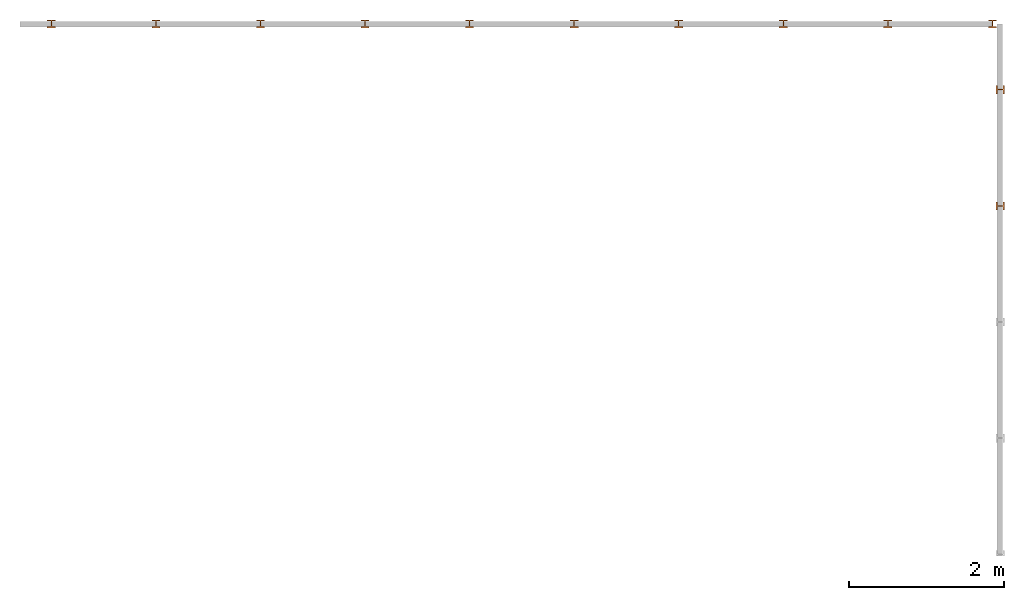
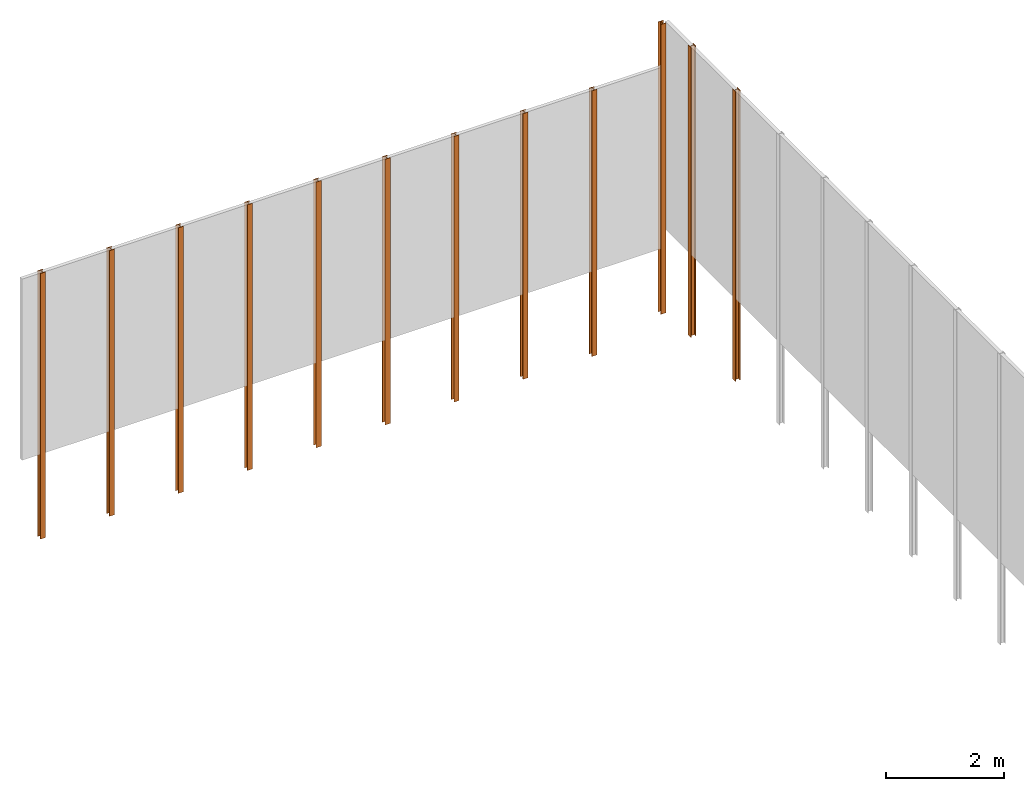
# One storey, part 3 of 4: 12 proxies.
"""IFC4 building model written with IfcOpenShell, lengths in metres."""

import ifcopenshell
import ifcopenshell.guid

model = None  # the IFC model being written
_history = None  # IfcOwnerHistory: only IFC2X3 demands one
_inside = {}  # id of a spatial element -> (the spatial element, [elements in it])
_under = {}  # id of a project, library or spatial element -> (it, [spatial elements below it])
_declared = {}  # id of a project -> (the project, [libraries it declares])
_typed = {}  # id of a type object -> (the type object, [elements of that type])
_made_of = {}  # id of a material, layer set ... -> (it, [elements and type objects made of it])


def new_model(schema):
    """Start an empty IFC model of exactly this schema.

    Asked for "IFC4X3", IfcOpenShell would pick the latest addendum, in which some entities
    have other attributes; the version numbers below select the first issue.
    IFC2X3 requires an IfcOwnerHistory on every rooted entity: one is made here for all.
    """
    global model, _history
    if schema == "IFC4X3":
        model = ifcopenshell.file(schema_version=(4, 3, 0, 0))
    else:
        model = ifcopenshell.file(schema=schema)
    _inside.clear()
    _under.clear()
    _declared.clear()
    _typed.clear()
    _made_of.clear()
    _history = None
    if model.schema == "IFC2X3":
        org = make("IfcOrganization", Name="unknown")
        user = make(
            "IfcPersonAndOrganization",
            ThePerson=make("IfcPerson", FamilyName="unknown"),
            TheOrganization=org,
        )
        app = make(
            "IfcApplication",
            ApplicationDeveloper=org,
            Version="unknown",
            ApplicationFullName="unknown",
            ApplicationIdentifier="unknown",
        )
        _history = make(
            "IfcOwnerHistory",
            OwningUser=user,
            OwningApplication=app,
            ChangeAction="ADDED",
            CreationDate=0,
        )
    return model


def make(cls, **values):
    """One entity of the class cls with the attributes given. An attribute that is None is left unset."""
    return model.create_entity(
        cls, **{name: value for name, value in values.items() if value is not None}
    )


def entity(cls, *values):
    """Any entity or typed value of the class cls, its attributes in the order of the schema. None: left unset."""
    e = model.create_entity(cls)
    for i, value in enumerate(values):
        if value is not None:
            e[i] = value
    return e


def rooted(cls, **values):
    """An entity with a GlobalId (a new one), such as an element, a storey or a relation."""
    return make(cls, GlobalId=ifcopenshell.guid.new(), OwnerHistory=_history, **values)


def si_unit(unit_type, name, prefix=None):
    """IfcSIUnit, for example si_unit("LENGTHUNIT", "METRE", prefix="MILLI")."""
    return make("IfcSIUnit", UnitType=unit_type, Prefix=prefix, Name=name)


def converted_unit(unit_type, name, factor, base, dimensions=None, offset=None):
    """IfcConversionBasedUnit, such as the inch: factor (a typed value) times the base unit."""
    return make(
        "IfcConversionBasedUnit"
        if offset is None
        else "IfcConversionBasedUnitWithOffset",
        ConversionOffset=offset,
        Dimensions=None
        if dimensions is None
        else entity("IfcDimensionalExponents", *dimensions),
        UnitType=unit_type,
        Name=name,
        ConversionFactor=make(
            "IfcMeasureWithUnit", ValueComponent=factor, UnitComponent=base
        ),
    )


def derived_unit(unit_type, elements):
    """IfcDerivedUnit: a product of units, each with its exponent."""
    return make(
        "IfcDerivedUnit",
        Elements=[
            make("IfcDerivedUnitElement", Unit=unit, Exponent=power)
            for unit, power in elements
        ],
        UnitType=unit_type,
    )


def assignment(units):
    """IfcUnitAssignment: the units of a project."""
    return None if units is None else make("IfcUnitAssignment", Units=units)


def point(xyz):
    """IfcCartesianPoint."""
    return None if xyz is None else make("IfcCartesianPoint", Coordinates=xyz)


def direction(xyz):
    """IfcDirection."""
    return None if xyz is None else make("IfcDirection", DirectionRatios=xyz)


def frame(location, z_axis=None, x_axis=None):
    """IfcAxis2Placement3D, a coordinate frame: its origin and axes. An axis left out is left unset."""
    return make(
        "IfcAxis2Placement3D",
        Location=point(location),
        Axis=direction(z_axis),
        RefDirection=direction(x_axis),
    )


def origin():
    """The frame at (0, 0, 0) with its axes left unset."""
    return frame((0.0, 0.0, 0.0))


def origin_with_axes():
    """The frame at (0, 0, 0) with the z axis (0, 0, 1) and the x axis (1, 0, 0) written out."""
    return frame((0.0, 0.0, 0.0), z_axis=(0.0, 0.0, 1.0), x_axis=(1.0, 0.0, 0.0))


def place(relative_to, where):
    """IfcLocalPlacement: puts the frame where relative to a parent placement (None: the world)."""
    return make(
        "IfcLocalPlacement", PlacementRelTo=relative_to, RelativePlacement=where
    )


def context(
    kind, dimensions, precision=None, world=None, true_north=None, identifier=None
):
    """IfcGeometricRepresentationContext, for example the 3D "Model" context."""
    return make(
        "IfcGeometricRepresentationContext",
        ContextIdentifier=identifier,
        ContextType=kind,
        CoordinateSpaceDimension=dimensions,
        Precision=precision,
        WorldCoordinateSystem=world,
        TrueNorth=true_north,
    )


def subcontext(parent, identifier, kind, view, scale=None):
    """IfcGeometricRepresentationSubContext, for example "Body" below "Model"."""
    return make(
        "IfcGeometricRepresentationSubContext",
        ContextIdentifier=identifier,
        ContextType=kind,
        ParentContext=parent,
        TargetScale=scale,
        TargetView=view,
    )


def project(units=None, contexts=None):
    """IfcProject with its units and contexts."""
    return rooted(
        "IfcProject",
        Name="project",
        RepresentationContexts=contexts,
        UnitsInContext=assignment(units),
    )


def spatial(cls, under=None, at=None, **own):
    """A site, building, storey or space (cls), placed at a placement, below another one or the project."""
    s = rooted(cls, ObjectPlacement=at, **own)
    if under is not None:
        _under.setdefault(under.id(), (under, []))[1].append(s)
    return s


def faces_of(points, faces, orient=None, outer=None):
    """IfcFace entities. A face is a list of loops; a loop is a list of indices into points, from 0.

    orient and outer hold one flag for each loop. By default every Orientation is true, the
    first loop of a face is its IfcFaceOuterBound and the others are IfcFaceBound.
    """
    made = []
    for i, loops in enumerate(faces):
        bounds = []
        for j, loop in enumerate(loops):
            is_outer = j == 0 if outer is None else outer[i][j]
            bounds.append(
                make(
                    "IfcFaceOuterBound" if is_outer else "IfcFaceBound",
                    Bound=make("IfcPolyLoop", Polygon=[points[k] for k in loop]),
                    Orientation=True if orient is None else orient[i][j],
                )
            )
        made.append(make("IfcFace", Bounds=bounds))
    return made


def faceted_brep(points, faces, orient=None, outer=None, voids=None):
    """IfcFacetedBrep: a solid bounded by flat faces; with voids (closed shells), ...WithVoids."""
    shared = [point(p) for p in points]
    hull = make("IfcClosedShell", CfsFaces=faces_of(shared, faces, orient, outer))
    if voids is None:
        return make("IfcFacetedBrep", Outer=hull)
    return make(
        "IfcFacetedBrepWithVoids",
        Outer=hull,
        Voids=[
            make(cls, CfsFaces=faces_of(shared, fs, o, b)) for cls, fs, o, b in voids
        ],
    )


def shape(context_of_items, identifier, shape_type, items):
    """IfcShapeRepresentation: the items that make up one representation, for example the "Body"."""
    return make(
        "IfcShapeRepresentation",
        ContextOfItems=context_of_items,
        RepresentationIdentifier=identifier,
        RepresentationType=shape_type,
        Items=items,
    )


def source(mapping_origin, context_of_items, identifier, shape_type, items):
    """IfcRepresentationMap: a shape defined once, which mapped items show again and again."""
    return make(
        "IfcRepresentationMap",
        MappingOrigin=mapping_origin,
        MappedRepresentation=shape(context_of_items, identifier, shape_type, items),
    )


def transform(
    local_origin,
    x_axis=None,
    y_axis=None,
    z_axis=None,
    scale=None,
    scale2=None,
    scale3=None,
    uniform=True,
):
    """IfcCartesianTransformationOperator3D, or its non-uniform kind. x_axis, y_axis, z_axis: its Axis1, 2, 3."""
    if uniform:
        return make(
            "IfcCartesianTransformationOperator3D",
            Axis1=direction(x_axis),
            Axis2=direction(y_axis),
            LocalOrigin=point(local_origin),
            Scale=scale,
            Axis3=direction(z_axis),
        )
    return make(
        "IfcCartesianTransformationOperator3DnonUniform",
        Axis1=direction(x_axis),
        Axis2=direction(y_axis),
        LocalOrigin=point(local_origin),
        Scale=scale,
        Axis3=direction(z_axis),
        Scale2=scale2,
        Scale3=scale3,
    )


def mapped(mapping_source, mapping_target):
    """IfcMappedItem: shows the shape of a source again, moved by a transform."""
    return make(
        "IfcMappedItem", MappingSource=mapping_source, MappingTarget=mapping_target
    )


def material(Name=None, Category=None):
    """IfcMaterial."""
    return make("IfcMaterial", Name=Name, Category=Category)


def made_of(thing, what):
    """Note that an element or type object is made of a material, layer set ...; save() writes the relation."""
    if what is not None:
        _made_of.setdefault(what.id(), (what, []))[1].append(thing)
    return thing


def element(
    cls,
    number,
    at=None,
    inside=None,
    cuts=None,
    type_object=None,
    material=None,
    context=None,
    identifier="Body",
    shape_type=None,
    held_by="IfcProductDefinitionShape",
    body=None,
    shapes=None,
    **own,
):
    """One element of the class cls, such as IfcWall. Its Tag is "e" and its number.

    at: its placement. inside: the storey or other place that contains it. cuts: it is an
    opening in that element (IfcRelVoidsElement). A single representation is given by context,
    identifier, shape_type and body (its items); several are given by shapes. held_by: the class
    of the entity that holds the representations. save() writes the other relations.
    """
    e = rooted(cls, Tag="e%d" % number, ObjectPlacement=at, **own)
    if body is not None:
        shapes = [shape(context, identifier, shape_type, body)]
    if shapes is not None:
        e.Representation = make(held_by, Representations=shapes)
    if inside is not None:
        _inside.setdefault(inside.id(), (inside, []))[1].append(e)
    if cuts is not None:
        rooted(
            "IfcRelVoidsElement", RelatingBuildingElement=cuts, RelatedOpeningElement=e
        )
    if type_object is not None:
        _typed.setdefault(type_object.id(), (type_object, []))[1].append(e)
    return made_of(e, material)


def aggregate(whole, parts):
    """IfcRelAggregates: a whole, such as a stair, and the parts it consists of."""
    return rooted("IfcRelAggregates", RelatingObject=whole, RelatedObjects=parts)


def save(model, path):
    """Write the relations noted so far, then the file.

    IfcRelAggregates (storeys below a building ...), IfcRelContainedInSpatialStructure (elements
    in a storey), IfcRelDefinesByType, IfcRelAssociatesMaterial and IfcRelDeclares: one each for
    every whole, place, type object, material and project.
    """
    for whole, parts in _under.values():
        aggregate(whole, parts)
    for where, things in _inside.values():
        rooted(
            "IfcRelContainedInSpatialStructure",
            RelatedElements=things,
            RelatingStructure=where,
        )
    for kind, things in _typed.values():
        rooted("IfcRelDefinesByType", RelatedObjects=things, RelatingType=kind)
    for what, things in _made_of.values():
        rooted("IfcRelAssociatesMaterial", RelatedObjects=things, RelatingMaterial=what)
    for by, libraries in _declared.values():
        rooted("IfcRelDeclares", RelatingContext=by, RelatedDefinitions=libraries)
    model.write(path)


model = new_model("IFC4")

# Units and contexts
model_context = context("Model", 3, precision=1e-05, world=origin())
body_context = subcontext(model_context, "Body", "Model", "MODEL_VIEW")
ifc_project = project(units=[si_unit("LENGTHUNIT", "METRE"), si_unit("AREAUNIT", "SQUARE_METRE"), si_unit("VOLUMEUNIT", "CUBIC_METRE"), si_unit("MASSUNIT", "GRAM", prefix="KILO"), converted_unit("PLANEANGLEUNIT", "DEGREE", entity("IfcPlaneAngleMeasure", 0.0174532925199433), si_unit("PLANEANGLEUNIT", "RADIAN"), dimensions=[0, 0, 0, 0, 0, 0, 0]), derived_unit("THERMALTRANSMITTANCEUNIT", [(si_unit("POWERUNIT", "WATT"), 1), (si_unit("THERMODYNAMICTEMPERATUREUNIT", "KELVIN"), -1), (si_unit("LENGTHUNIT", "METRE"), -2)]), derived_unit("VOLUMETRICFLOWRATEUNIT", [(si_unit("LENGTHUNIT", "METRE"), 3), (converted_unit("TIMEUNIT", "hour", entity("IfcTimeMeasure", 3600.0), si_unit("TIMEUNIT", "SECOND"), dimensions=[0, 0, 1, 0, 0, 0, 0]), -1), (si_unit("LENGTHUNIT", "METRE"), -1)])], contexts=[model_context])

# Site, building, storey
site_placement = place(None, origin())
site = spatial("IfcSite", under=ifc_project, at=site_placement, Name="3. ASŘ", CompositionType="ELEMENT")
building_placement = place(site_placement, origin())
building = spatial("IfcBuilding", under=site, at=building_placement, Name="Pavilon C", CompositionType="ELEMENT")
storey_placement = place(building_placement, origin())
storey = spatial("IfcBuildingStorey", under=building, at=storey_placement, Name="Výkopy", CompositionType="ELEMENT", Elevation=0.0)

# Proxies
ifc_material_1 = material(Name="HEB 100")
shared_shape_1 = source(origin_with_axes(), body_context, "Body", "Brep", [
    faceted_brep([(0.0, 0.0, 0.0), (0.1, 0.0, 0.0), (0.1, 0.00999999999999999, 0.0), (0.053, 0.00999999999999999, 0.0), (0.053, 0.09, 0.0), (0.1, 0.09, 0.0), (0.1, 0.1, 0.0), (0.0, 0.1, 0.0), (0.0, 0.09, 0.0), (0.047, 0.09, 0.0), (0.047, 0.01, 0.0), (0.0, 0.01, 0.0), (0.1, 0.0, 6.0), (0.0, 0.0, 6.0), (0.0, 0.01, 6.0), (0.047, 0.01, 6.0), (0.047, 0.09, 6.0), (0.0, 0.09, 6.0), (0.0, 0.1, 6.0), (0.1, 0.1, 6.0), (0.1, 0.09, 6.0), (0.053, 0.09, 6.0), (0.053, 0.00999999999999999, 6.0), (0.1, 0.00999999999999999, 6.0)], [[[0, 1, 2, 3, 4, 5, 6, 7, 8, 9, 10, 11]], [[12, 13, 14, 15, 16, 17, 18, 19, 20, 21, 22, 23]], [[1, 0, 13, 12]], [[7, 6, 19, 18]], [[8, 7, 18, 17]], [[9, 8, 17, 16]], [[10, 9, 16, 15]], [[11, 10, 15, 14]], [[0, 11, 14, 13]], [[2, 1, 12, 23]], [[3, 2, 23, 22]], [[4, 3, 22, 21]], [[5, 4, 21, 20]], [[6, 5, 20, 19]]], orient=[[False], [False], [False], [False], [False], [False], [False], [False], [False], [False], [False], [False], [False], [False]]),
])
proxy_1_placement = place(storey_placement, frame((65.8, 16.4250000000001, -5.8), z_axis=(0.0, 0.0, 1.0), x_axis=(-3.67394039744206e-16, -1.0, 0.0)))
element("IfcBuildingElementProxy", 1, at=proxy_1_placement, inside=storey, material=ifc_material_1, Name="mz12", context=body_context, shape_type="MappedRepresentation", body=[
    mapped(shared_shape_1, transform((0.0, 0.0, 0.0), x_axis=(1.0, 0.0, 0.0), y_axis=(0.0, 1.0, 0.0), z_axis=(0.0, 0.0, 1.0), scale=1.0)),
])
ifc_material_2 = material(Name="HEB 100")
proxy_2_placement = place(storey_placement, frame((65.8, 18.7750000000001, -5.8), z_axis=(0.0, 0.0, 1.0), x_axis=(-1.0, 2.44929359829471e-16, 0.0)))
element("IfcBuildingElementProxy", 2, at=proxy_2_placement, inside=storey, material=ifc_material_2, Name="mz14", context=body_context, shape_type="MappedRepresentation", body=[
    mapped(shared_shape_1, transform((0.0, 0.0, 0.0), x_axis=(1.0, 0.0, 0.0), y_axis=(0.0, 1.0, 0.0), z_axis=(0.0, 0.0, 1.0), scale=1.0)),
])
ifc_material_3 = material(Name="HEB 100")
proxy_3_placement = place(storey_placement, frame((65.8, 17.9250000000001, -5.8), z_axis=(0.0, 0.0, 1.0), x_axis=(-3.67394039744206e-16, -1.0, 0.0)))
element("IfcBuildingElementProxy", 3, at=proxy_3_placement, inside=storey, material=ifc_material_3, Name="mz13", context=body_context, shape_type="MappedRepresentation", body=[
    mapped(shared_shape_1, transform((0.0, 0.0, 0.0), x_axis=(1.0, 0.0, 0.0), y_axis=(0.0, 1.0, 0.0), z_axis=(0.0, 0.0, 1.0), scale=1.0)),
])
ifc_material_4 = material(Name="HEB 100")
shared_shape_2 = source(origin_with_axes(), body_context, "Body", "Brep", [
    faceted_brep([(0.0, 0.0, 0.0), (0.1, 0.0, 0.0), (0.1, 0.00999999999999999, 0.0), (0.053, 0.00999999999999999, 0.0), (0.053, 0.09, 0.0), (0.1, 0.09, 0.0), (0.1, 0.1, 0.0), (0.0, 0.1, 0.0), (0.0, 0.09, 0.0), (0.047, 0.09, 0.0), (0.047, 0.01, 0.0), (0.0, 0.01, 0.0), (0.1, 0.0, 5.5), (0.0, 0.0, 5.5), (0.0, 0.01, 5.5), (0.047, 0.01, 5.5), (0.047, 0.09, 5.5), (0.0, 0.09, 5.5), (0.0, 0.1, 5.5), (0.1, 0.1, 5.5), (0.1, 0.09, 5.5), (0.053, 0.09, 5.5), (0.053, 0.00999999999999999, 5.5), (0.1, 0.00999999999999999, 5.5)], [[[0, 1, 2, 3, 4, 5, 6, 7, 8, 9, 10, 11]], [[12, 13, 14, 15, 16, 17, 18, 19, 20, 21, 22, 23]], [[1, 0, 13, 12]], [[7, 6, 19, 18]], [[8, 7, 18, 17]], [[9, 8, 17, 16]], [[10, 9, 16, 15]], [[11, 10, 15, 14]], [[0, 11, 14, 13]], [[2, 1, 12, 23]], [[3, 2, 23, 22]], [[4, 3, 22, 21]], [[5, 4, 21, 20]], [[6, 5, 20, 19]]], orient=[[False], [False], [False], [False], [False], [False], [False], [False], [False], [False], [False], [False], [False], [False]]),
])
proxy_4_placement = place(storey_placement, frame((53.65, 18.7750000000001, -6.2), z_axis=(0.0, 0.0, 1.0), x_axis=(-1.0, 2.44929359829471e-16, 0.0)))
element("IfcBuildingElementProxy", 4, at=proxy_4_placement, inside=storey, material=ifc_material_4, Name="mz23", context=body_context, shape_type="MappedRepresentation", body=[
    mapped(shared_shape_2, transform((0.0, 0.0, 0.0), x_axis=(1.0, 0.0, 0.0), y_axis=(0.0, 1.0, 0.0), z_axis=(0.0, 0.0, 1.0), scale=1.0)),
])
ifc_material_5 = material(Name="HEB 100")
proxy_5_placement = place(storey_placement, frame((55.0, 18.7750000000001, -6.2), z_axis=(0.0, 0.0, 1.0), x_axis=(-1.0, 2.44929359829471e-16, 0.0)))
element("IfcBuildingElementProxy", 5, at=proxy_5_placement, inside=storey, material=ifc_material_5, Name="mz22", context=body_context, shape_type="MappedRepresentation", body=[
    mapped(shared_shape_2, transform((0.0, 0.0, 0.0), x_axis=(1.0, 0.0, 0.0), y_axis=(0.0, 1.0, 0.0), z_axis=(0.0, 0.0, 1.0), scale=1.0)),
])
ifc_material_6 = material(Name="HEB 100")
proxy_6_placement = place(storey_placement, frame((56.35, 18.7750000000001, -6.2), z_axis=(0.0, 0.0, 1.0), x_axis=(-1.0, 2.44929359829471e-16, 0.0)))
element("IfcBuildingElementProxy", 6, at=proxy_6_placement, inside=storey, material=ifc_material_6, Name="mz21", context=body_context, shape_type="MappedRepresentation", body=[
    mapped(shared_shape_2, transform((0.0, 0.0, 0.0), x_axis=(1.0, 0.0, 0.0), y_axis=(0.0, 1.0, 0.0), z_axis=(0.0, 0.0, 1.0), scale=1.0)),
])
ifc_material_7 = material(Name="HEB 100")
proxy_7_placement = place(storey_placement, frame((57.7, 18.7750000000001, -6.2), z_axis=(0.0, 0.0, 1.0), x_axis=(-1.0, 2.44929359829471e-16, 0.0)))
element("IfcBuildingElementProxy", 7, at=proxy_7_placement, inside=storey, material=ifc_material_7, Name="mz20", context=body_context, shape_type="MappedRepresentation", body=[
    mapped(shared_shape_2, transform((0.0, 0.0, 0.0), x_axis=(1.0, 0.0, 0.0), y_axis=(0.0, 1.0, 0.0), z_axis=(0.0, 0.0, 1.0), scale=1.0)),
])
ifc_material_8 = material(Name="HEB 100")
proxy_8_placement = place(storey_placement, frame((59.05, 18.7750000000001, -6.2), z_axis=(0.0, 0.0, 1.0), x_axis=(-1.0, 2.44929359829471e-16, 0.0)))
element("IfcBuildingElementProxy", 8, at=proxy_8_placement, inside=storey, material=ifc_material_8, Name="mz19", context=body_context, shape_type="MappedRepresentation", body=[
    mapped(shared_shape_2, transform((0.0, 0.0, 0.0), x_axis=(1.0, 0.0, 0.0), y_axis=(0.0, 1.0, 0.0), z_axis=(0.0, 0.0, 1.0), scale=1.0)),
])
ifc_material_9 = material(Name="HEB 100")
proxy_9_placement = place(storey_placement, frame((60.4, 18.7750000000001, -6.2), z_axis=(0.0, 0.0, 1.0), x_axis=(-1.0, 2.44929359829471e-16, 0.0)))
element("IfcBuildingElementProxy", 9, at=proxy_9_placement, inside=storey, material=ifc_material_9, Name="mz18", context=body_context, shape_type="MappedRepresentation", body=[
    mapped(shared_shape_2, transform((0.0, 0.0, 0.0), x_axis=(1.0, 0.0, 0.0), y_axis=(0.0, 1.0, 0.0), z_axis=(0.0, 0.0, 1.0), scale=1.0)),
])
ifc_material_10 = material(Name="HEB 100")
proxy_10_placement = place(storey_placement, frame((61.75, 18.7750000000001, -6.2), z_axis=(0.0, 0.0, 1.0), x_axis=(-1.0, 2.44929359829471e-16, 0.0)))
element("IfcBuildingElementProxy", 10, at=proxy_10_placement, inside=storey, material=ifc_material_10, Name="mz17", context=body_context, shape_type="MappedRepresentation", body=[
    mapped(shared_shape_2, transform((0.0, 0.0, 0.0), x_axis=(1.0, 0.0, 0.0), y_axis=(0.0, 1.0, 0.0), z_axis=(0.0, 0.0, 1.0), scale=1.0)),
])
ifc_material_11 = material(Name="HEB 100")
proxy_11_placement = place(storey_placement, frame((63.1, 18.7750000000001, -6.2), z_axis=(0.0, 0.0, 1.0), x_axis=(-1.0, 2.44929359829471e-16, 0.0)))
element("IfcBuildingElementProxy", 11, at=proxy_11_placement, inside=storey, material=ifc_material_11, Name="mz16", context=body_context, shape_type="MappedRepresentation", body=[
    mapped(shared_shape_2, transform((0.0, 0.0, 0.0), x_axis=(1.0, 0.0, 0.0), y_axis=(0.0, 1.0, 0.0), z_axis=(0.0, 0.0, 1.0), scale=1.0)),
])
ifc_material_12 = material(Name="HEB 100")
proxy_12_placement = place(storey_placement, frame((64.45, 18.7750000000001, -6.2), z_axis=(0.0, 0.0, 1.0), x_axis=(-1.0, 2.44929359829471e-16, 0.0)))
element("IfcBuildingElementProxy", 12, at=proxy_12_placement, inside=storey, material=ifc_material_12, Name="mz15", context=body_context, shape_type="MappedRepresentation", body=[
    mapped(shared_shape_2, transform((0.0, 0.0, 0.0), x_axis=(1.0, 0.0, 0.0), y_axis=(0.0, 1.0, 0.0), z_axis=(0.0, 0.0, 1.0), scale=1.0)),
])

save(model, "model.ifc")
